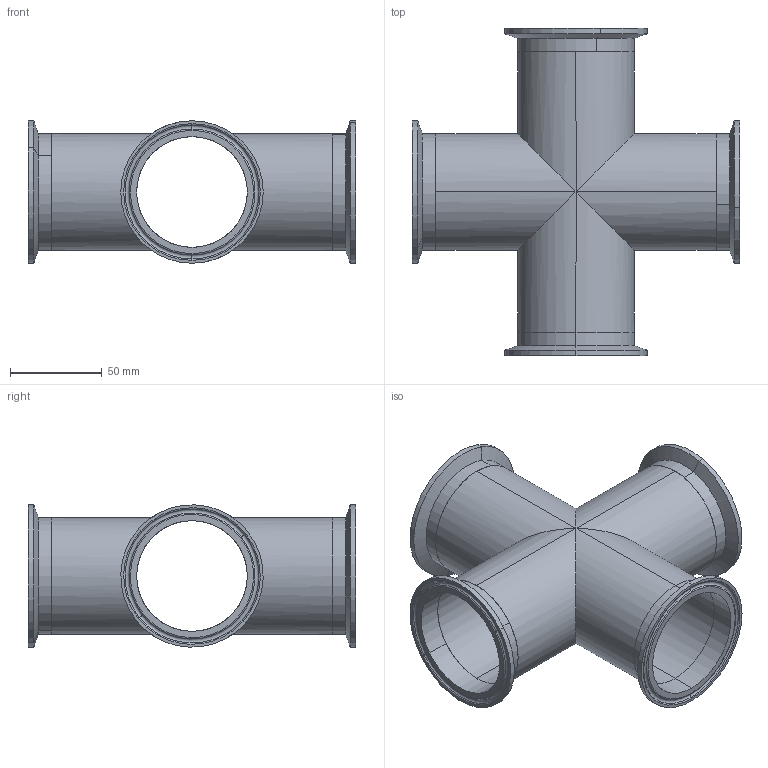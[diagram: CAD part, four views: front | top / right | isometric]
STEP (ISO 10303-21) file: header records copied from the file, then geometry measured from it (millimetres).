
FILE_DESCRIPTION (( 'STEP AP203' ), '1' );
FILE_NAME ('EG9 2.5.STEP', '2021-10-25T16:22:27', ( '' ), ( '' ), 'SwSTEP 2.0', 'SolidWorks 2021', '' );
FILE_SCHEMA (( 'CONFIG_CONTROL_DESIGN' ));
Length unit declared in the file: inch
Products named in the file (3): EG2CS2.5; EG9 2.5; V9W2.5
Assembly tree (5 placements, depth 2):
  EG9 2.5
    V9W2.5
    EG2CS2.5  x4
Bounding box: 177.8 x 177.8 x 77.39 mm (x, y, z)
Volume: 111720 mm3; surface area: 123447.8 mm2
Topology: 5 solids, 5 shells, 88 faces, 176 edges, 100 vertices
Faces by surface type: cylinder 40, torus 24, plane 16, cone 8
Entity records: 1369 total; most frequent: DIRECTION 198, CARTESIAN_POINT 183, ORIENTED_EDGE 148, AXIS2_PLACEMENT_3D 87, EDGE_CURVE 74, EDGE_LOOP 44, CIRCLE 42, VERTEX_POINT 40
